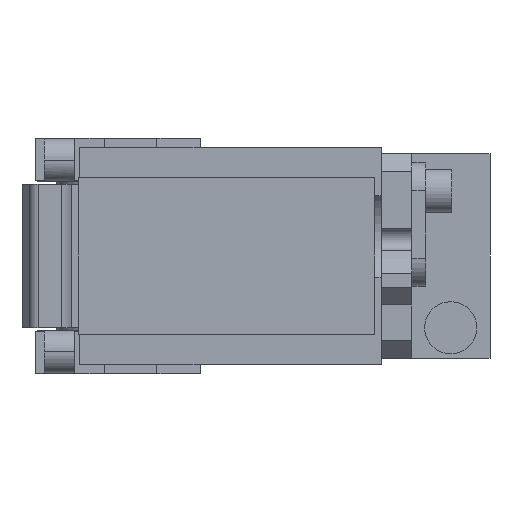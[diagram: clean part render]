
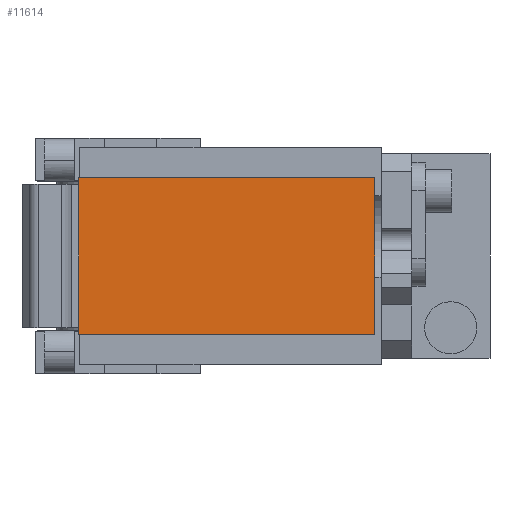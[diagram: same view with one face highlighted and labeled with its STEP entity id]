
A CAD part, front view. The second image highlights one B-rep face of the part: STEP entity #11614.
In plain terms, the highlighted planar face has unit normal (0, -1, 0).
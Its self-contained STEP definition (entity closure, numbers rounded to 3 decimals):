
#17 = VERTEX_POINT ( 'NONE', #2188 ) ;
#613 = VERTEX_POINT ( 'NONE', #2931 ) ;
#938 = CARTESIAN_POINT ( 'NONE',  ( -6., -233., 18. ) ) ;
#1442 = ORIENTED_EDGE ( 'NONE', *, *, #2986, .T. ) ;
#1582 = LINE ( 'NONE', #8905, #8354 ) ;
#2188 = CARTESIAN_POINT ( 'NONE',  ( 62., -233., -18. ) ) ;
#2261 = DIRECTION ( 'NONE',  ( 1., 0., 0. ) ) ;
#2931 = CARTESIAN_POINT ( 'NONE',  ( 62., -233., 18. ) ) ;
#2986 = EDGE_CURVE ( 'NONE', #13694, #17, #4437, .T. ) ;
#3023 = DIRECTION ( 'NONE',  ( 0., -1., 0. ) ) ;
#4304 = LINE ( 'NONE', #938, #8379 ) ;
#4437 = LINE ( 'NONE', #7750, #11255 ) ;
#4536 = DIRECTION ( 'NONE',  ( 0., 0., 1. ) ) ;
#4578 = ORIENTED_EDGE ( 'NONE', *, *, #13314, .T. ) ;
#4794 = EDGE_CURVE ( 'NONE', #5927, #13694, #12646, .T. ) ;
#5169 = CARTESIAN_POINT ( 'NONE',  ( -6., -233., 18. ) ) ;
#5628 = CARTESIAN_POINT ( 'NONE',  ( -6., -233., -18. ) ) ;
#5927 = VERTEX_POINT ( 'NONE', #5169 ) ;
#6078 = VECTOR ( 'NONE', #13502, 1000. ) ;
#7394 = CARTESIAN_POINT ( 'NONE',  ( 0., -233., 0. ) ) ;
#7750 = CARTESIAN_POINT ( 'NONE',  ( -6., -233., -18. ) ) ;
#8354 = VECTOR ( 'NONE', #4536, 1000. ) ;
#8379 = VECTOR ( 'NONE', #12933, 1000. ) ;
#8905 = CARTESIAN_POINT ( 'NONE',  ( 62., -233., 18. ) ) ;
#9266 = ORIENTED_EDGE ( 'NONE', *, *, #9715, .T. ) ;
#9396 = CARTESIAN_POINT ( 'NONE',  ( -6., -233., 18. ) ) ;
#9715 = EDGE_CURVE ( 'NONE', #17, #613, #1582, .T. ) ;
#10399 = EDGE_LOOP ( 'NONE', ( #12606, #1442, #9266, #4578 ) ) ;
#11255 = VECTOR ( 'NONE', #2261, 1000. ) ;
#11614 = ADVANCED_FACE ( 'NONE', ( #12754 ), #12691, .T. ) ;
#11704 = DIRECTION ( 'NONE',  ( 0., 0., -1. ) ) ;
#12606 = ORIENTED_EDGE ( 'NONE', *, *, #4794, .T. ) ;
#12646 = LINE ( 'NONE', #9396, #6078 ) ;
#12691 = PLANE ( 'NONE',  #13678 ) ;
#12754 = FACE_OUTER_BOUND ( 'NONE', #10399, .T. ) ;
#12933 = DIRECTION ( 'NONE',  ( -1., 0., 0. ) ) ;
#13314 = EDGE_CURVE ( 'NONE', #613, #5927, #4304, .T. ) ;
#13502 = DIRECTION ( 'NONE',  ( 0., 0., -1. ) ) ;
#13678 = AXIS2_PLACEMENT_3D ( 'NONE', #7394, #3023, #11704 ) ;
#13694 = VERTEX_POINT ( 'NONE', #5628 ) ;
